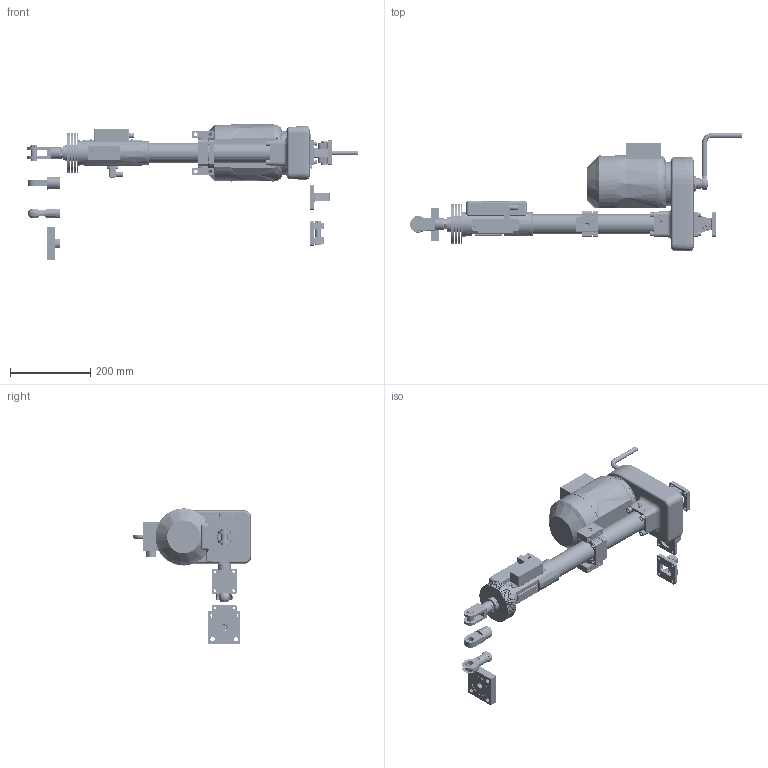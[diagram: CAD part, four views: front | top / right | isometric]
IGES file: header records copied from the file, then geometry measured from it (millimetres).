
Start section: SolidWorks IGES file using analytic representation for surfaces
Global section: file name: E:\Ïðîåêòíàÿ äîêóìåíòàöèÿ\ïðîåêòû\â ðàçðàáîòêå\êóçíåöîâ\ÌÝÏ-Ñ1\Ðåêëàìà\Ñ1-300.IGS; native system: SolidWorks 2012; preprocessor: SolidWorks 2012; author: Êóçíåöîâ; date: 131211.140517; units: millimetre
Bounding box: 825.12 x 293.4 x 336 mm (x, y, z)
Surface area: 804145.5 mm2 (no closed solid volume)
Topology: 0 solids, 0 shells, 2067 faces, 43761 edges, 43749 vertices
Faces by surface type: revolution 1108, bspline 959
